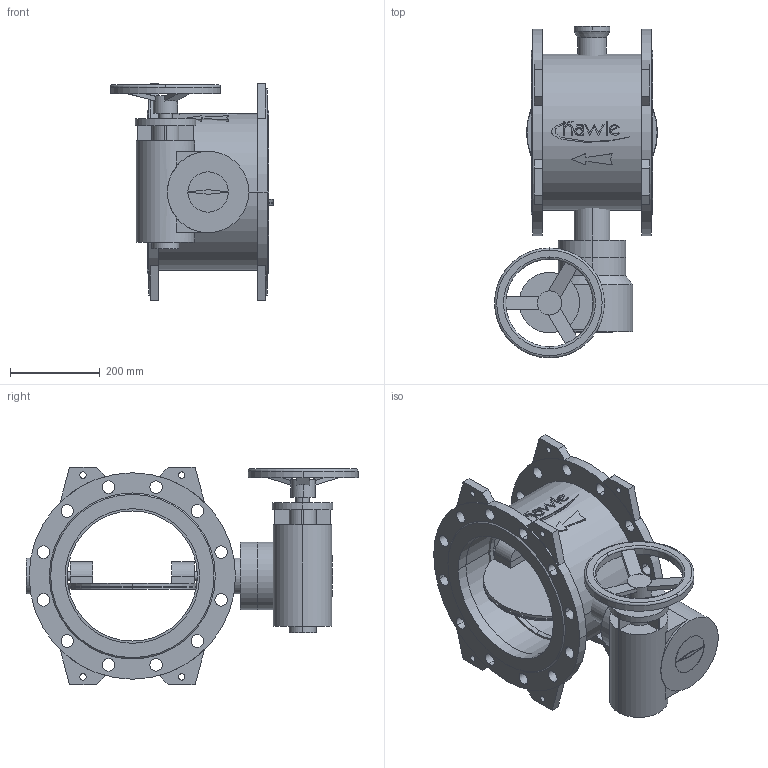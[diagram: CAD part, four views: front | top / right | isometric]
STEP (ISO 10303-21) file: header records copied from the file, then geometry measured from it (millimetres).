
FILE_DESCRIPTION(('STEP AP214'),'1');
FILE_NAME('S:/EK/USER/CAT6/3DHomepage_27-04-2012/neu_08-01-2013/9881K/9881K_PN16_DN300_7800.STP','2013-02-26T15:23:55',(' '),(' '),'Spatial InterOp 3D',' ',' ');
FILE_SCHEMA(('automotive_design'));
Length unit declared in the file: millimetre
Products named in the file (47): 3D-Objekt
Bounding box: 363.5 x 740 x 484 mm (x, y, z)
Volume: 19651036.9 mm3; surface area: 1957138.1 mm2
Topology: 47 solids, 47 shells, 395 faces, 894 edges, 596 vertices
Faces by surface type: plane 212, cylinder 171, cone 8, torus 4
Entity records: 15731 total; most frequent: DIRECTION 2170, CARTESIAN_POINT 2057, ORIENTED_EDGE 1788, EDGE_CURVE 894, AXIS2_PLACEMENT_3D 835, VERTEX_POINT 596, LINE 500, VECTOR 500
